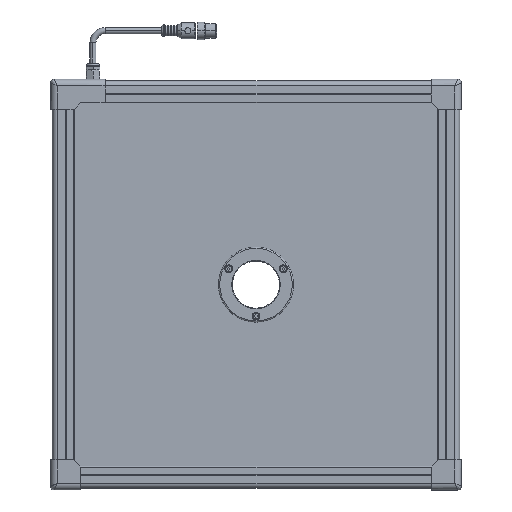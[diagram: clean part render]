
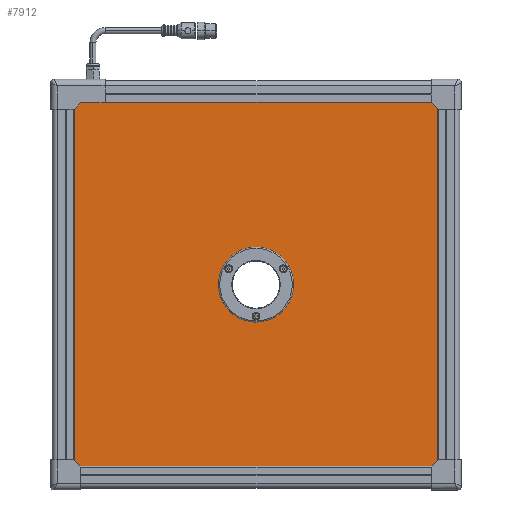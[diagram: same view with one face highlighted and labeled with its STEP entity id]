
A CAD part, front view. The second image highlights one B-rep face of the part: STEP entity #7912.
In plain terms, the highlighted planar face has unit normal (0, -1, 0).
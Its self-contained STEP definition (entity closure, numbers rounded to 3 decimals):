
#385 = EDGE_CURVE ( 'NONE', #11044, #10994, #17983, .T. ) ;
#3012 = FACE_OUTER_BOUND ( 'NONE', #10023, .T. ) ;
#3037 = FACE_BOUND ( 'NONE', #10021, .T. ) ;
#3340 = CARTESIAN_POINT ( 'NONE',  ( -150.25, 2.5, 150.25 ) ) ;
#3344 = PLANE ( 'NONE',  #25322 ) ;
#3352 = DIRECTION ( 'NONE',  ( 0., -1., 0. ) ) ;
#3353 = DIRECTION ( 'NONE',  ( 0., 0., -1. ) ) ;
#5479 = CARTESIAN_POINT ( 'NONE',  ( -149.75, 2.5, 149.75 ) ) ;
#5481 = CARTESIAN_POINT ( 'NONE',  ( -149.75, 2.5, 150.25 ) ) ;
#5499 = CARTESIAN_POINT ( 'NONE',  ( -149.75, 2.5, -149.75 ) ) ;
#5515 = CARTESIAN_POINT ( 'NONE',  ( 149.75, 2.5, 150.25 ) ) ;
#5549 = CARTESIAN_POINT ( 'NONE',  ( -149.75, 2.5, -150.25 ) ) ;
#5550 = CARTESIAN_POINT ( 'NONE',  ( 149.75, 2.5, -150.25 ) ) ;
#5563 = CARTESIAN_POINT ( 'NONE',  ( -150.25, 2.5, 149.75 ) ) ;
#5577 = CARTESIAN_POINT ( 'NONE',  ( 149.75, 2.5, -149.75 ) ) ;
#5640 = CARTESIAN_POINT ( 'NONE',  ( 150.25, 2.5, -149.75 ) ) ;
#5668 = CARTESIAN_POINT ( 'NONE',  ( 150.25, 2.5, 149.75 ) ) ;
#5696 = CARTESIAN_POINT ( 'NONE',  ( -150.25, 2.5, -149.75 ) ) ;
#5754 = CARTESIAN_POINT ( 'NONE',  ( 0., 2.5, 22.3 ) ) ;
#5758 = CARTESIAN_POINT ( 'NONE',  ( 149.75, 2.5, 149.75 ) ) ;
#5765 = CARTESIAN_POINT ( 'NONE',  ( 0., 2.5, -22.3 ) ) ;
#7371 = LINE ( 'NONE', #9159, #7376 ) ;
#7376 = VECTOR ( 'NONE', #9160, 1000. ) ;
#7400 = LINE ( 'NONE', #9178, #7402 ) ;
#7402 = VECTOR ( 'NONE', #9179, 1000. ) ;
#7404 = CIRCLE ( 'NONE', #9264, 22.3 ) ;
#7408 = CIRCLE ( 'NONE', #9261, 22.3 ) ;
#7409 = LINE ( 'NONE', #9180, #7411 ) ;
#7411 = VECTOR ( 'NONE', #9181, 1000. ) ;
#7413 = LINE ( 'NONE', #14057, #7415 ) ;
#7415 = VECTOR ( 'NONE', #14058, 1000. ) ;
#7518 = VECTOR ( 'NONE', #14127, 1000. ) ;
#7520 = LINE ( 'NONE', #14126, #7518 ) ;
#7637 = LINE ( 'NONE', #14196, #7639 ) ;
#7639 = VECTOR ( 'NONE', #14197, 1000. ) ;
#7762 = VECTOR ( 'NONE', #14306, 1000. ) ;
#7795 = LINE ( 'NONE', #14305, #7762 ) ;
#7796 = LINE ( 'NONE', #14284, #7803 ) ;
#7803 = VECTOR ( 'NONE', #14302, 1000. ) ;
#7816 = LINE ( 'NONE', #14309, #7818 ) ;
#7818 = VECTOR ( 'NONE', #14310, 1000. ) ;
#7849 = LINE ( 'NONE', #14330, #7851 ) ;
#7851 = VECTOR ( 'NONE', #14331, 1000. ) ;
#7853 = LINE ( 'NONE', #14332, #7855 ) ;
#7855 = VECTOR ( 'NONE', #14333, 1000. ) ;
#7912 = ADVANCED_FACE ( 'NONE', ( #3037, #3012 ), #3344, .T. ) ;
#9159 = CARTESIAN_POINT ( 'NONE',  ( -150.25, 2.5, 150.25 ) ) ;
#9160 = DIRECTION ( 'NONE',  ( 0., 0., -1. ) ) ;
#9171 = CARTESIAN_POINT ( 'NONE',  ( 0., 2.5, 0. ) ) ;
#9172 = DIRECTION ( 'NONE',  ( 0., -1., 0. ) ) ;
#9173 = DIRECTION ( 'NONE',  ( 0., 0., -1. ) ) ;
#9174 = CARTESIAN_POINT ( 'NONE',  ( 0., 2.5, 0. ) ) ;
#9176 = DIRECTION ( 'NONE',  ( 0., -1., 0. ) ) ;
#9177 = DIRECTION ( 'NONE',  ( 0., 0., -1. ) ) ;
#9178 = CARTESIAN_POINT ( 'NONE',  ( 149.75, 2.5, 150.25 ) ) ;
#9179 = DIRECTION ( 'NONE',  ( 0., 0., -1. ) ) ;
#9180 = CARTESIAN_POINT ( 'NONE',  ( -150.25, 2.5, 149.75 ) ) ;
#9181 = DIRECTION ( 'NONE',  ( 1., 0., 0. ) ) ;
#9261 = AXIS2_PLACEMENT_3D ( 'NONE', #9174, #9176, #9177 ) ;
#9264 = AXIS2_PLACEMENT_3D ( 'NONE', #9171, #9172, #9173 ) ;
#9519 = ORIENTED_EDGE ( 'NONE', *, *, #12790, .F. ) ;
#9520 = ORIENTED_EDGE ( 'NONE', *, *, #12789, .F. ) ;
#9521 = ORIENTED_EDGE ( 'NONE', *, *, #12791, .F. ) ;
#9522 = ORIENTED_EDGE ( 'NONE', *, *, #12914, .T. ) ;
#9523 = ORIENTED_EDGE ( 'NONE', *, *, #12912, .F. ) ;
#9524 = ORIENTED_EDGE ( 'NONE', *, *, #12792, .F. ) ;
#9525 = ORIENTED_EDGE ( 'NONE', *, *, #12783, .T. ) ;
#9526 = ORIENTED_EDGE ( 'NONE', *, *, #12910, .F. ) ;
#9527 = ORIENTED_EDGE ( 'NONE', *, *, #385, .F. ) ;
#9528 = ORIENTED_EDGE ( 'NONE', *, *, #12859, .T. ) ;
#9529 = ORIENTED_EDGE ( 'NONE', *, *, #12793, .F. ) ;
#9530 = ORIENTED_EDGE ( 'NONE', *, *, #12925, .F. ) ;
#9531 = ORIENTED_EDGE ( 'NONE', *, *, #12826, .T. ) ;
#9532 = ORIENTED_EDGE ( 'NONE', *, *, #12924, .F. ) ;
#10021 = EDGE_LOOP ( 'NONE', ( #9519, #9520 ) ) ;
#10023 = EDGE_LOOP ( 'NONE', ( #9521, #9522, #9523, #9524, #9525, #9526, #9527, #9528, #9529, #9530, #9531, #9532 ) ) ;
#10974 = VERTEX_POINT ( 'NONE', #5479 ) ;
#10976 = VERTEX_POINT ( 'NONE', #5481 ) ;
#10994 = VERTEX_POINT ( 'NONE', #5499 ) ;
#11010 = VERTEX_POINT ( 'NONE', #5515 ) ;
#11044 = VERTEX_POINT ( 'NONE', #5549 ) ;
#11045 = VERTEX_POINT ( 'NONE', #5550 ) ;
#11058 = VERTEX_POINT ( 'NONE', #5563 ) ;
#11072 = VERTEX_POINT ( 'NONE', #5577 ) ;
#11135 = VERTEX_POINT ( 'NONE', #5640 ) ;
#11163 = VERTEX_POINT ( 'NONE', #5668 ) ;
#11191 = VERTEX_POINT ( 'NONE', #5696 ) ;
#11249 = VERTEX_POINT ( 'NONE', #5754 ) ;
#11253 = VERTEX_POINT ( 'NONE', #5758 ) ;
#11260 = VERTEX_POINT ( 'NONE', #5765 ) ;
#12783 = EDGE_CURVE ( 'NONE', #11058, #11191, #7371, .T. ) ;
#12789 = EDGE_CURVE ( 'NONE', #11249, #11260, #7404, .T. ) ;
#12790 = EDGE_CURVE ( 'NONE', #11260, #11249, #7408, .T. ) ;
#12791 = EDGE_CURVE ( 'NONE', #11010, #11253, #7400, .T. ) ;
#12792 = EDGE_CURVE ( 'NONE', #11058, #10974, #7409, .T. ) ;
#12793 = EDGE_CURVE ( 'NONE', #11072, #11045, #7413, .T. ) ;
#12826 = EDGE_CURVE ( 'NONE', #11135, #11163, #7520, .T. ) ;
#12859 = EDGE_CURVE ( 'NONE', #11044, #11045, #7637, .T. ) ;
#12910 = EDGE_CURVE ( 'NONE', #10994, #11191, #7796, .T. ) ;
#12912 = EDGE_CURVE ( 'NONE', #10974, #10976, #7795, .T. ) ;
#12914 = EDGE_CURVE ( 'NONE', #11010, #10976, #7816, .T. ) ;
#12924 = EDGE_CURVE ( 'NONE', #11253, #11163, #7849, .T. ) ;
#12925 = EDGE_CURVE ( 'NONE', #11135, #11072, #7853, .T. ) ;
#14057 = CARTESIAN_POINT ( 'NONE',  ( 149.75, 2.5, 150.25 ) ) ;
#14058 = DIRECTION ( 'NONE',  ( 0., 0., -1. ) ) ;
#14126 = CARTESIAN_POINT ( 'NONE',  ( 150.25, 2.5, -150.25 ) ) ;
#14127 = DIRECTION ( 'NONE',  ( 0., 0., 1. ) ) ;
#14196 = CARTESIAN_POINT ( 'NONE',  ( -150.25, 2.5, -150.25 ) ) ;
#14197 = DIRECTION ( 'NONE',  ( 1., 0., 0. ) ) ;
#14284 = CARTESIAN_POINT ( 'NONE',  ( -150.25, 2.5, -149.75 ) ) ;
#14302 = DIRECTION ( 'NONE',  ( -1., 0., 0. ) ) ;
#14305 = CARTESIAN_POINT ( 'NONE',  ( -149.75, 2.5, 150.25 ) ) ;
#14306 = DIRECTION ( 'NONE',  ( 0., 0., 1. ) ) ;
#14309 = CARTESIAN_POINT ( 'NONE',  ( 150.25, 2.5, 150.25 ) ) ;
#14310 = DIRECTION ( 'NONE',  ( -1., 0., 0. ) ) ;
#14330 = CARTESIAN_POINT ( 'NONE',  ( -150.25, 2.5, 149.75 ) ) ;
#14331 = DIRECTION ( 'NONE',  ( 1., 0., 0. ) ) ;
#14332 = CARTESIAN_POINT ( 'NONE',  ( -150.25, 2.5, -149.75 ) ) ;
#14333 = DIRECTION ( 'NONE',  ( -1., 0., 0. ) ) ;
#17983 = LINE ( 'NONE', #18895, #17984 ) ;
#17984 = VECTOR ( 'NONE', #18896, 1000. ) ;
#18895 = CARTESIAN_POINT ( 'NONE',  ( -149.75, 2.5, 150.25 ) ) ;
#18896 = DIRECTION ( 'NONE',  ( 0., 0., 1. ) ) ;
#25322 = AXIS2_PLACEMENT_3D ( 'NONE', #3340, #3352, #3353 ) ;
